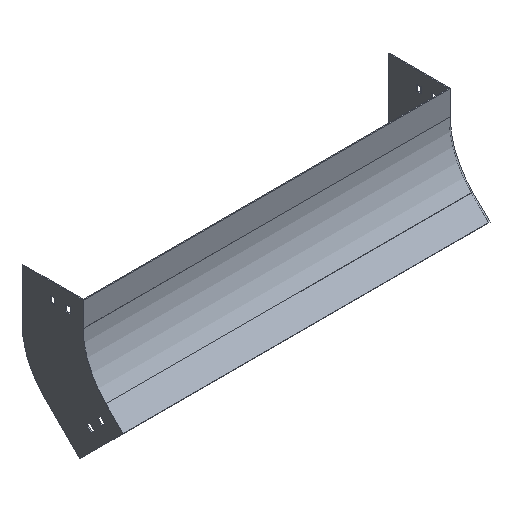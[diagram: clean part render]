
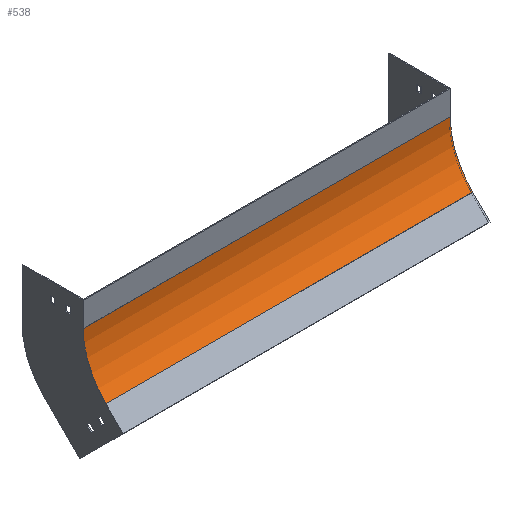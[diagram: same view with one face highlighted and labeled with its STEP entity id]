
A CAD part, isometric view. The second image highlights one B-rep face of the part: STEP entity #538.
In plain terms, the highlighted cylindrical face has radius 125 mm (diameter 250 mm), a partial arc.
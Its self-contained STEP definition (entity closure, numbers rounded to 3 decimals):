
#15 = ORIENTED_EDGE ( 'NONE', *, *, #141, .F. ) ;
#33 = ORIENTED_EDGE ( 'NONE', *, *, #911, .T. ) ;
#41 = CARTESIAN_POINT ( 'NONE',  ( 300., -36.612, -128.388 ) ) ;
#49 = DIRECTION ( 'NONE',  ( -1., 0., 0. ) ) ;
#53 = VERTEX_POINT ( 'NONE', #1603 ) ;
#95 = AXIS2_PLACEMENT_3D ( 'NONE', #1503, #904, #1635 ) ;
#141 = EDGE_CURVE ( 'NONE', #53, #175, #1201, .T. ) ;
#175 = VERTEX_POINT ( 'NONE', #465 ) ;
#216 = VECTOR ( 'NONE', #555, 1000. ) ;
#257 = VECTOR ( 'NONE', #1238, 1000. ) ;
#307 = ORIENTED_EDGE ( 'NONE', *, *, #759, .T. ) ;
#324 = CARTESIAN_POINT ( 'NONE',  ( 300., -125., -40. ) ) ;
#437 = DIRECTION ( 'NONE',  ( 0., 0., 1. ) ) ;
#448 = CYLINDRICAL_SURFACE ( 'NONE', #827, 125. ) ;
#465 = CARTESIAN_POINT ( 'NONE',  ( -300., -36.612, -128.388 ) ) ;
#538 = ADVANCED_FACE ( 'NONE', ( #1216 ), #448, .F. ) ;
#555 = DIRECTION ( 'NONE',  ( -1., 0., 0. ) ) ;
#606 = AXIS2_PLACEMENT_3D ( 'NONE', #709, #1214, #437 ) ;
#709 = CARTESIAN_POINT ( 'NONE',  ( 300., -125., -40. ) ) ;
#759 = EDGE_CURVE ( 'NONE', #1422, #175, #830, .T. ) ;
#808 = CARTESIAN_POINT ( 'NONE',  ( 300., 0., -40. ) ) ;
#827 = AXIS2_PLACEMENT_3D ( 'NONE', #324, #49, #837 ) ;
#830 = CIRCLE ( 'NONE', #95, 125. ) ;
#836 = CARTESIAN_POINT ( 'NONE',  ( -300., 0., -40. ) ) ;
#837 = DIRECTION ( 'NONE',  ( 0., 0., 1. ) ) ;
#904 = DIRECTION ( 'NONE',  ( -1., 0., 0. ) ) ;
#911 = EDGE_CURVE ( 'NONE', #1656, #1422, #1355, .T. ) ;
#926 = EDGE_CURVE ( 'NONE', #1656, #53, #1613, .T. ) ;
#994 = EDGE_LOOP ( 'NONE', ( #307, #15, #1037, #33 ) ) ;
#1037 = ORIENTED_EDGE ( 'NONE', *, *, #926, .F. ) ;
#1109 = CARTESIAN_POINT ( 'NONE',  ( 300., 0., -40. ) ) ;
#1201 = LINE ( 'NONE', #41, #216 ) ;
#1214 = DIRECTION ( 'NONE',  ( -1., 0., 0. ) ) ;
#1216 = FACE_OUTER_BOUND ( 'NONE', #994, .T. ) ;
#1238 = DIRECTION ( 'NONE',  ( -1., 0., 0. ) ) ;
#1355 = LINE ( 'NONE', #1109, #257 ) ;
#1422 = VERTEX_POINT ( 'NONE', #836 ) ;
#1503 = CARTESIAN_POINT ( 'NONE',  ( -300., -125., -40. ) ) ;
#1603 = CARTESIAN_POINT ( 'NONE',  ( 300., -36.612, -128.388 ) ) ;
#1613 = CIRCLE ( 'NONE', #606, 125. ) ;
#1635 = DIRECTION ( 'NONE',  ( 0., 0., 1. ) ) ;
#1656 = VERTEX_POINT ( 'NONE', #808 ) ;
